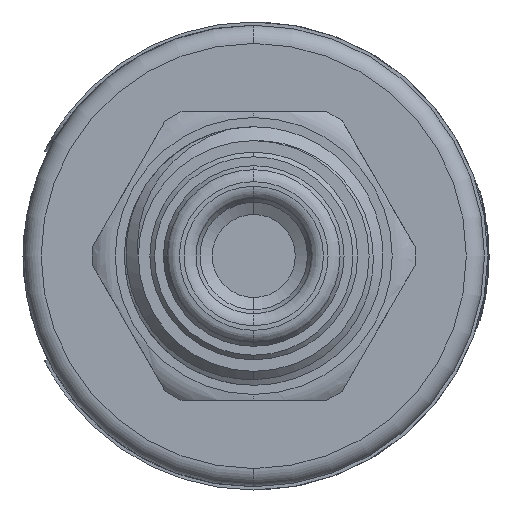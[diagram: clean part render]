
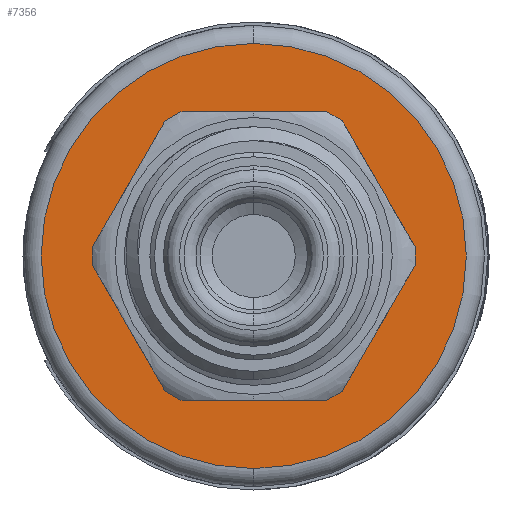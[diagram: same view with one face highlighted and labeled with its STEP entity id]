
A CAD part, front view. The second image highlights one B-rep face of the part: STEP entity #7356.
In plain terms, the highlighted planar face has unit normal (0, -1, 0).
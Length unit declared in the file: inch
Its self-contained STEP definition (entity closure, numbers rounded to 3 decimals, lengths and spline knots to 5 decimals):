
#78 = FACE_OUTER_BOUND ( 'NONE', #5820, .T. ) ;
#577 = VERTEX_POINT ( 'NONE', #11198 ) ;
#775 = DIRECTION ( 'NONE',  ( 0., -1., 0. ) ) ;
#1538 = PLANE ( 'NONE',  #9586 ) ;
#2049 = CIRCLE ( 'NONE', #6264, 0.46063 ) ;
#2163 = CARTESIAN_POINT ( 'NONE',  ( 0., 0.15748, -0.46063 ) ) ;
#2272 = VERTEX_POINT ( 'NONE', #2163 ) ;
#2379 = CIRCLE ( 'NONE', #7523, 0.1875 ) ;
#2642 = CARTESIAN_POINT ( 'NONE',  ( 0., 0.15748, 0. ) ) ;
#3059 = CIRCLE ( 'NONE', #7263, 0.46063 ) ;
#3660 = DIRECTION ( 'NONE',  ( 0., -1., 0. ) ) ;
#4017 = CARTESIAN_POINT ( 'NONE',  ( 0., 0.15748, 0. ) ) ;
#4101 = ORIENTED_EDGE ( 'NONE', *, *, #6078, .T. ) ;
#4627 = VERTEX_POINT ( 'NONE', #10615 ) ;
#4898 = CARTESIAN_POINT ( 'NONE',  ( 0., 0.15748, 0. ) ) ;
#5087 = ORIENTED_EDGE ( 'NONE', *, *, #12674, .F. ) ;
#5820 = EDGE_LOOP ( 'NONE', ( #4101, #10411 ) ) ;
#6078 = EDGE_CURVE ( 'NONE', #2272, #577, #2049, .T. ) ;
#6264 = AXIS2_PLACEMENT_3D ( 'NONE', #6932, #11440, #8523 ) ;
#6297 = CIRCLE ( 'NONE', #11258, 0.1875 ) ;
#6932 = CARTESIAN_POINT ( 'NONE',  ( 0., 0.15748, 0. ) ) ;
#7263 = AXIS2_PLACEMENT_3D ( 'NONE', #10911, #775, #14345 ) ;
#7270 = VERTEX_POINT ( 'NONE', #12555 ) ;
#7356 = ADVANCED_FACE ( 'NONE', ( #78, #11725 ), #1538, .T. ) ;
#7523 = AXIS2_PLACEMENT_3D ( 'NONE', #4017, #11880, #11090 ) ;
#8236 = EDGE_CURVE ( 'NONE', #4627, #7270, #6297, .T. ) ;
#8358 = DIRECTION ( 'NONE',  ( 0., -1., 0. ) ) ;
#8523 = DIRECTION ( 'NONE',  ( 0., 0., -1. ) ) ;
#8526 = ORIENTED_EDGE ( 'NONE', *, *, #8236, .F. ) ;
#8790 = EDGE_LOOP ( 'NONE', ( #8526, #5087 ) ) ;
#9586 = AXIS2_PLACEMENT_3D ( 'NONE', #4898, #3660, #13858 ) ;
#10411 = ORIENTED_EDGE ( 'NONE', *, *, #11321, .T. ) ;
#10615 = CARTESIAN_POINT ( 'NONE',  ( 0., 0.15748, -0.1875 ) ) ;
#10911 = CARTESIAN_POINT ( 'NONE',  ( 0., 0.15748, 0. ) ) ;
#11090 = DIRECTION ( 'NONE',  ( 0., 0., -1. ) ) ;
#11198 = CARTESIAN_POINT ( 'NONE',  ( 0., 0.15748, 0.46063 ) ) ;
#11258 = AXIS2_PLACEMENT_3D ( 'NONE', #2642, #8358, #11670 ) ;
#11321 = EDGE_CURVE ( 'NONE', #577, #2272, #3059, .T. ) ;
#11440 = DIRECTION ( 'NONE',  ( 0., -1., 0. ) ) ;
#11670 = DIRECTION ( 'NONE',  ( 0., 0., -1. ) ) ;
#11725 = FACE_BOUND ( 'NONE', #8790, .T. ) ;
#11880 = DIRECTION ( 'NONE',  ( 0., -1., 0. ) ) ;
#12555 = CARTESIAN_POINT ( 'NONE',  ( 0., 0.15748, 0.1875 ) ) ;
#12674 = EDGE_CURVE ( 'NONE', #7270, #4627, #2379, .T. ) ;
#13858 = DIRECTION ( 'NONE',  ( 0., 0., -1. ) ) ;
#14345 = DIRECTION ( 'NONE',  ( 0., 0., -1. ) ) ;
